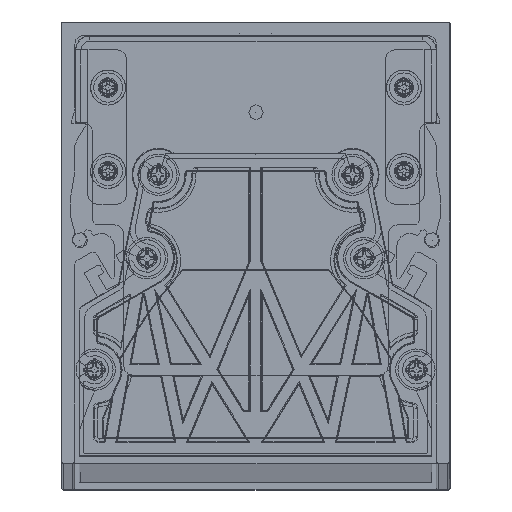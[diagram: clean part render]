
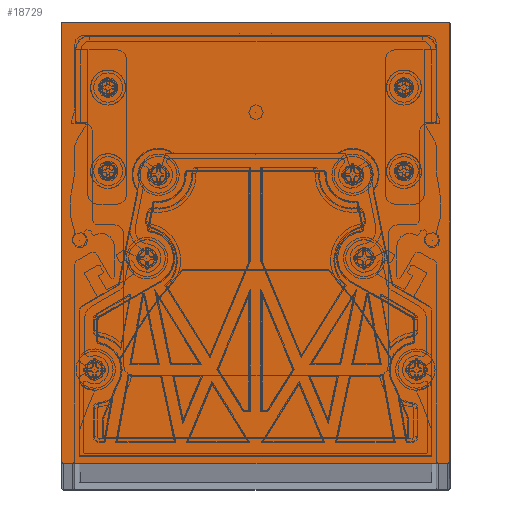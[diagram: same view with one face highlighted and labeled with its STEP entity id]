
A CAD part, top view. The second image highlights one B-rep face of the part: STEP entity #18729.
In plain terms, the highlighted planar face has unit normal (0, 0, 1).
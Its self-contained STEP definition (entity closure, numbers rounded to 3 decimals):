
#1141=PLANE('',#20138);
#1598=FACE_OUTER_BOUND('',#2706,.T.);
#2706=EDGE_LOOP('',(#12730,#12731,#12732,#12733,#12734,#12735,#12736,#12737));
#3913=LINE('',#28241,#5341);
#3916=LINE('',#28247,#5344);
#3918=LINE('',#28252,#5346);
#3922=LINE('',#28259,#5350);
#5341=VECTOR('',#22471,99.2);
#5344=VECTOR('',#22476,87.2);
#5346=VECTOR('',#22480,99.2);
#5350=VECTOR('',#22486,87.2);
#6741=CIRCLE('',#20139,0.5);
#6742=CIRCLE('',#20140,0.5);
#6743=CIRCLE('',#20141,0.5);
#6744=CIRCLE('',#20142,0.5);
#7802=VERTEX_POINT('',#28238);
#7803=VERTEX_POINT('',#28240);
#7804=VERTEX_POINT('',#28244);
#7805=VERTEX_POINT('',#28246);
#7806=VERTEX_POINT('',#28250);
#7807=VERTEX_POINT('',#28251);
#7808=VERTEX_POINT('',#28256);
#7809=VERTEX_POINT('',#28258);
#9712=EDGE_CURVE('',#7803,#7802,#3913,.T.);
#9715=EDGE_CURVE('',#7805,#7804,#3916,.T.);
#9717=EDGE_CURVE('',#7806,#7807,#3918,.T.);
#9721=EDGE_CURVE('',#7809,#7808,#3922,.T.);
#9723=EDGE_CURVE('',#7804,#7806,#6741,.T.);
#9724=EDGE_CURVE('',#7807,#7809,#6742,.T.);
#9725=EDGE_CURVE('',#7808,#7803,#6743,.T.);
#9726=EDGE_CURVE('',#7802,#7805,#6744,.T.);
#12730=ORIENTED_EDGE('',*,*,#9715,.T.);
#12731=ORIENTED_EDGE('',*,*,#9723,.T.);
#12732=ORIENTED_EDGE('',*,*,#9717,.T.);
#12733=ORIENTED_EDGE('',*,*,#9724,.T.);
#12734=ORIENTED_EDGE('',*,*,#9721,.T.);
#12735=ORIENTED_EDGE('',*,*,#9725,.T.);
#12736=ORIENTED_EDGE('',*,*,#9712,.T.);
#12737=ORIENTED_EDGE('',*,*,#9726,.T.);
#18729=ADVANCED_FACE('',(#1598),#1141,.T.);
#20138=AXIS2_PLACEMENT_3D('',#28261,#22488,#22489);
#20139=AXIS2_PLACEMENT_3D('',#28262,#22490,#22491);
#20140=AXIS2_PLACEMENT_3D('',#28263,#22492,#22493);
#20141=AXIS2_PLACEMENT_3D('',#28264,#22494,#22495);
#20142=AXIS2_PLACEMENT_3D('',#28265,#22496,#22497);
#22471=DIRECTION('',(0.,-1.,0.));
#22476=DIRECTION('',(1.,0.,0.));
#22480=DIRECTION('',(0.,1.,0.));
#22486=DIRECTION('',(-1.,0.,0.));
#22488=DIRECTION('center_axis',(0.,0.,1.));
#22489=DIRECTION('ref_axis',(1.,0.,0.));
#22490=DIRECTION('center_axis',(0.,0.,1.));
#22491=DIRECTION('ref_axis',(1.,0.,0.));
#22492=DIRECTION('center_axis',(0.,0.,1.));
#22493=DIRECTION('ref_axis',(1.,0.,0.));
#22494=DIRECTION('center_axis',(0.,0.,1.));
#22495=DIRECTION('ref_axis',(1.,0.,0.));
#22496=DIRECTION('center_axis',(0.,0.,1.));
#22497=DIRECTION('ref_axis',(1.,0.,0.));
#28238=CARTESIAN_POINT('',(-16.211,4.687,5.));
#28240=CARTESIAN_POINT('',(-16.211,103.887,5.));
#28241=CARTESIAN_POINT('',(-16.211,103.887,5.));
#28244=CARTESIAN_POINT('',(71.489,4.187,5.));
#28246=CARTESIAN_POINT('',(-15.711,4.187,5.));
#28247=CARTESIAN_POINT('',(-15.711,4.187,5.));
#28250=CARTESIAN_POINT('',(71.989,4.687,5.));
#28251=CARTESIAN_POINT('',(71.989,103.887,5.));
#28252=CARTESIAN_POINT('',(71.989,4.687,5.));
#28256=CARTESIAN_POINT('',(-15.711,104.387,5.));
#28258=CARTESIAN_POINT('',(71.489,104.387,5.));
#28259=CARTESIAN_POINT('',(71.489,104.387,5.));
#28261=CARTESIAN_POINT('Origin',(0.,0.,5.));
#28262=CARTESIAN_POINT('Origin',(71.489,4.687,5.));
#28263=CARTESIAN_POINT('Origin',(71.489,103.887,5.));
#28264=CARTESIAN_POINT('Origin',(-15.711,103.887,5.));
#28265=CARTESIAN_POINT('Origin',(-15.711,4.687,5.));
